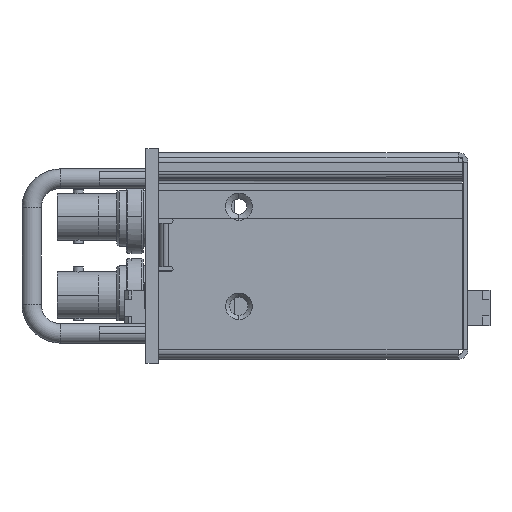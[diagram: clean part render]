
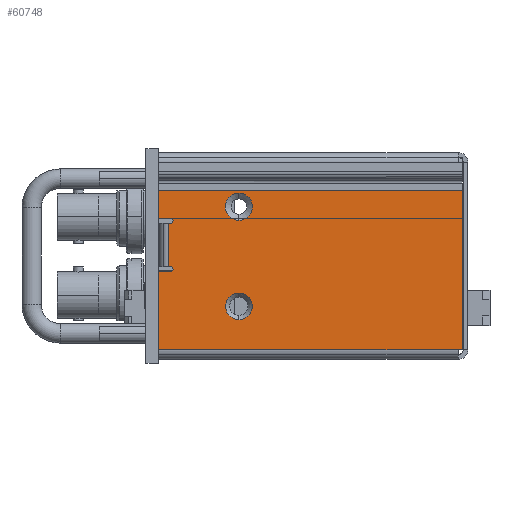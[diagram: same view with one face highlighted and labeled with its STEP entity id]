
A CAD part, left-side view. The second image highlights one B-rep face of the part: STEP entity #60748.
In plain terms, the highlighted planar face has unit normal (-1, 0, 0).
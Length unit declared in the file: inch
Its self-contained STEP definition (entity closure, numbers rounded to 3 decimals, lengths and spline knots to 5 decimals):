
#785=DIRECTION('',(0.,0.,1.));
#786=VECTOR('',#785,0.6308);
#787=CARTESIAN_POINT('',(-0.25,0.0498,-0.1662));
#788=LINE('',#787,#786);
#803=DIRECTION('',(0.,0.,1.));
#804=VECTOR('',#803,0.2246);
#805=CARTESIAN_POINT('',(-0.25,0.0498,0.8934));
#806=LINE('',#805,#804);
#22481=DIRECTION('',(0.,-1.,0.));
#22482=VECTOR('',#22481,0.1);
#22483=CARTESIAN_POINT('',(-0.25,0.0498,0.4646));
#22484=LINE('',#22483,#22482);
#22485=CARTESIAN_POINT('',(-0.25,-0.0502,0.4843));
#22486=DIRECTION('',(-1.,0.,0.));
#22487=DIRECTION('',(0.,0.,-1.));
#22488=AXIS2_PLACEMENT_3D('',#22485,#22486,#22487);
#22490=DIRECTION('',(0.,-1.,0.));
#22491=VECTOR('',#22490,0.0212);
#22492=CARTESIAN_POINT('',(-0.25,-0.029,0.504));
#22493=LINE('',#22492,#22491);
#22494=DIRECTION('',(0.,0.,1.));
#22495=VECTOR('',#22494,0.35);
#22496=CARTESIAN_POINT('',(-0.25,-0.029,0.504));
#22497=LINE('',#22496,#22495);
#22498=DIRECTION('',(0.,-1.,0.));
#22499=VECTOR('',#22498,0.0212);
#22500=CARTESIAN_POINT('',(-0.25,-0.029,0.854));
#22501=LINE('',#22500,#22499);
#22502=CARTESIAN_POINT('',(-0.25,-0.0502,0.8737));
#22503=DIRECTION('',(-1.,0.,0.));
#22504=DIRECTION('',(0.,0.,-1.));
#22505=AXIS2_PLACEMENT_3D('',#22502,#22503,#22504);
#22507=DIRECTION('',(0.,-1.,0.));
#22508=VECTOR('',#22507,0.1);
#22509=CARTESIAN_POINT('',(-0.25,0.0498,0.8934));
#22510=LINE('',#22509,#22508);
#22511=DIRECTION('',(0.,-1.,0.));
#22512=VECTOR('',#22511,2.4532);
#22513=CARTESIAN_POINT('',(-0.25,0.0498,1.118));
#22514=LINE('',#22513,#22512);
#22515=DIRECTION('',(0.,0.,-1.));
#22516=VECTOR('',#22515,1.2842);
#22517=CARTESIAN_POINT('',(-0.25,-2.4034,1.118));
#22518=LINE('',#22517,#22516);
#22519=DIRECTION('',(0.,1.,0.));
#22520=VECTOR('',#22519,0.0334);
#22521=CARTESIAN_POINT('',(-0.25,-2.4034,-0.1662));
#22522=LINE('',#22521,#22520);
#22523=DIRECTION('',(0.,-1.,0.));
#22524=VECTOR('',#22523,2.4198);
#22525=CARTESIAN_POINT('',(-0.25,0.0498,-0.1662));
#22526=LINE('',#22525,#22524);
#22527=CARTESIAN_POINT('',(-0.25,-0.6002,0.1834));
#22528=DIRECTION('',(-1.,0.,0.));
#22529=DIRECTION('',(0.,0.,1.));
#22530=AXIS2_PLACEMENT_3D('',#22527,#22528,#22529);
#22532=CARTESIAN_POINT('',(-0.25,-0.6002,0.1834));
#22533=DIRECTION('',(-1.,0.,0.));
#22534=DIRECTION('',(0.,0.,-1.));
#22535=AXIS2_PLACEMENT_3D('',#22532,#22533,#22534);
#22537=CARTESIAN_POINT('',(-0.25,-0.6002,0.988));
#22538=DIRECTION('',(1.,0.,0.));
#22539=DIRECTION('',(0.,0.,1.));
#22540=AXIS2_PLACEMENT_3D('',#22537,#22538,#22539);
#22542=CARTESIAN_POINT('',(-0.25,-0.6002,0.988));
#22543=DIRECTION('',(1.,0.,0.));
#22544=DIRECTION('',(0.,0.,-1.));
#22545=AXIS2_PLACEMENT_3D('',#22542,#22543,#22544);
#31451=CARTESIAN_POINT('',(-0.25,-0.0502,0.4646));
#31452=CARTESIAN_POINT('',(-0.25,-0.0502,0.504));
#31453=VERTEX_POINT('',#31451);
#31454=VERTEX_POINT('',#31452);
#31455=CARTESIAN_POINT('',(-0.25,-0.0502,0.854));
#31456=CARTESIAN_POINT('',(-0.25,-0.0502,0.8934));
#31457=VERTEX_POINT('',#31455);
#31458=VERTEX_POINT('',#31456);
#31533=CARTESIAN_POINT('',(-0.25,-2.37,-0.1662));
#31534=VERTEX_POINT('',#31533);
#31545=CARTESIAN_POINT('',(-0.25,-0.029,0.504));
#31546=CARTESIAN_POINT('',(-0.25,-0.029,0.854));
#31547=VERTEX_POINT('',#31545);
#31548=VERTEX_POINT('',#31546);
#31578=CARTESIAN_POINT('',(-0.25,-2.4034,-0.1662));
#31580=VERTEX_POINT('',#31578);
#31632=CARTESIAN_POINT('',(-0.25,-2.4034,1.118));
#31634=VERTEX_POINT('',#31632);
#31656=CARTESIAN_POINT('',(-0.25,-0.6002,0.29115));
#31657=CARTESIAN_POINT('',(-0.25,-0.6002,0.07565));
#31658=VERTEX_POINT('',#31656);
#31659=VERTEX_POINT('',#31657);
#31720=CARTESIAN_POINT('',(-0.25,-0.6002,1.09746));
#31721=CARTESIAN_POINT('',(-0.25,-0.6002,0.87854));
#31722=VERTEX_POINT('',#31720);
#31723=VERTEX_POINT('',#31721);
#31788=CARTESIAN_POINT('',(-0.25,0.0498,-0.1662));
#31789=CARTESIAN_POINT('',(-0.25,0.0498,0.4646));
#31790=VERTEX_POINT('',#31788);
#31791=VERTEX_POINT('',#31789);
#31792=CARTESIAN_POINT('',(-0.25,0.0498,0.8934));
#31793=CARTESIAN_POINT('',(-0.25,0.0498,1.118));
#31794=VERTEX_POINT('',#31792);
#31795=VERTEX_POINT('',#31793);
#60706=CARTESIAN_POINT('',(-0.25,0.0498,-0.245));
#60707=DIRECTION('',(-1.,0.,0.));
#60708=DIRECTION('',(0.,0.,1.));
#60709=AXIS2_PLACEMENT_3D('',#60706,#60707,#60708);
#60710=PLANE('',#60709);
#60712=ORIENTED_EDGE('',*,*,#60711,.T.);
#60714=ORIENTED_EDGE('',*,*,#60713,.T.);
#60716=ORIENTED_EDGE('',*,*,#60715,.F.);
#60718=ORIENTED_EDGE('',*,*,#60717,.T.);
#60720=ORIENTED_EDGE('',*,*,#60719,.T.);
#60722=ORIENTED_EDGE('',*,*,#60721,.T.);
#60724=ORIENTED_EDGE('',*,*,#60723,.F.);
#60725=ORIENTED_EDGE('',*,*,#32649,.T.);
#60727=ORIENTED_EDGE('',*,*,#60726,.T.);
#60729=ORIENTED_EDGE('',*,*,#60728,.T.);
#60731=ORIENTED_EDGE('',*,*,#60730,.T.);
#60732=ORIENTED_EDGE('',*,*,#60698,.F.);
#60733=ORIENTED_EDGE('',*,*,#32639,.T.);
#60734=EDGE_LOOP('',(#60712,#60714,#60716,#60718,#60720,#60722,#60724,#60725,
#60727,#60729,#60731,#60732,#60733));
#60735=FACE_OUTER_BOUND('',#60734,.F.);
#60737=ORIENTED_EDGE('',*,*,#60736,.T.);
#60739=ORIENTED_EDGE('',*,*,#60738,.T.);
#60740=EDGE_LOOP('',(#60737,#60739));
#60741=FACE_BOUND('',#60740,.F.);
#60743=ORIENTED_EDGE('',*,*,#60742,.F.);
#60745=ORIENTED_EDGE('',*,*,#60744,.F.);
#60746=EDGE_LOOP('',(#60743,#60745));
#60747=FACE_BOUND('',#60746,.F.);
#60748=ADVANCED_FACE('',(#60735,#60741,#60747),#60710,.T.);
#22489=CIRCLE('',#22488,0.0197);
#22506=CIRCLE('',#22505,0.0197);
#22531=CIRCLE('',#22530,0.10775);
#22536=CIRCLE('',#22535,0.10775);
#22541=CIRCLE('',#22540,0.10946);
#22546=CIRCLE('',#22545,0.10946);
#32639=EDGE_CURVE('',#31790,#31791,#788,.T.);
#32649=EDGE_CURVE('',#31794,#31795,#806,.T.);
#60698=EDGE_CURVE('',#31790,#31534,#22526,.T.);
#60711=EDGE_CURVE('',#31791,#31453,#22484,.T.);
#60713=EDGE_CURVE('',#31453,#31454,#22489,.T.);
#60715=EDGE_CURVE('',#31547,#31454,#22493,.T.);
#60717=EDGE_CURVE('',#31547,#31548,#22497,.T.);
#60719=EDGE_CURVE('',#31548,#31457,#22501,.T.);
#60721=EDGE_CURVE('',#31457,#31458,#22506,.T.);
#60723=EDGE_CURVE('',#31794,#31458,#22510,.T.);
#60726=EDGE_CURVE('',#31795,#31634,#22514,.T.);
#60728=EDGE_CURVE('',#31634,#31580,#22518,.T.);
#60730=EDGE_CURVE('',#31580,#31534,#22522,.T.);
#60736=EDGE_CURVE('',#31658,#31659,#22531,.T.);
#60738=EDGE_CURVE('',#31659,#31658,#22536,.T.);
#60742=EDGE_CURVE('',#31722,#31723,#22541,.T.);
#60744=EDGE_CURVE('',#31723,#31722,#22546,.T.);
